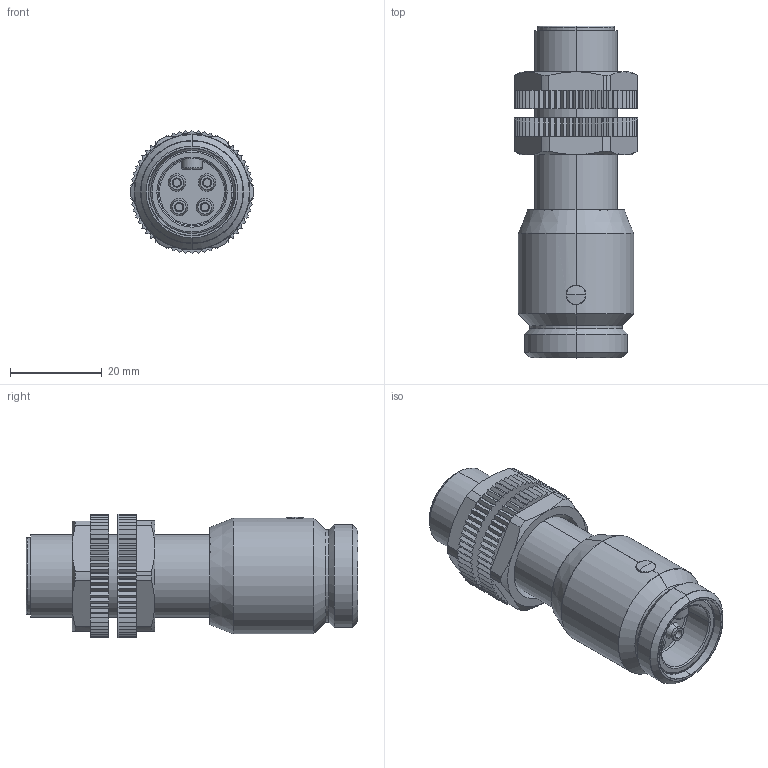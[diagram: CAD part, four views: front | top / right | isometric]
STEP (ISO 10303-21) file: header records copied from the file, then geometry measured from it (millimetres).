
FILE_DESCRIPTION (( 'STEP AP203' ), '1' );
FILE_NAME ('Bi-P18-ANX-B2-40.step', '2013-04-01T18:37:06', ( 'Turck User' ), ( '' ), 'SwSTEP 2.0', 'SolidWorks 2012', '' );
FILE_SCHEMA (( 'CONFIG_CONTROL_DESIGN' ));
Length unit declared in the file: millimetre
Products named in the file (1): Bi-P18-ANX-B2-40
Bounding box: 26.98 x 72.2 x 26.98 mm (x, y, z)
Volume: 20189.6 mm3; surface area: 15938.4 mm2
Topology: 1 solids, 4 shells, 661 faces, 1752 edges, 1129 vertices
Faces by surface type: plane 347, cylinder 237, cone 52, torus 17, sphere 4, bspline 4
Entity records: 20960 total; most frequent: CARTESIAN_POINT 4103, DIRECTION 3576, ORIENTED_EDGE 3500, EDGE_CURVE 1750, AXIS2_PLACEMENT_3D 1231, VERTEX_POINT 1129, LINE 1114, VECTOR 1114
